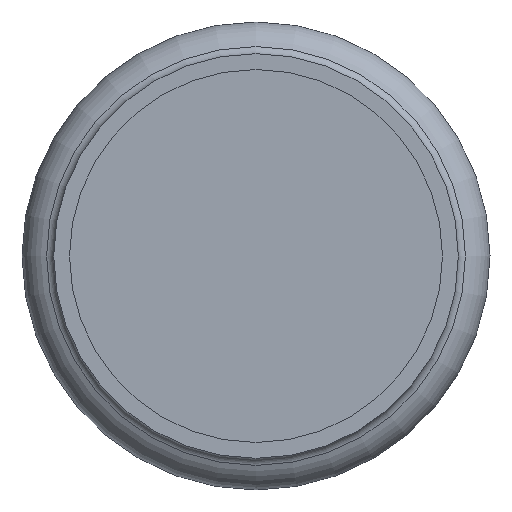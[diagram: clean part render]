
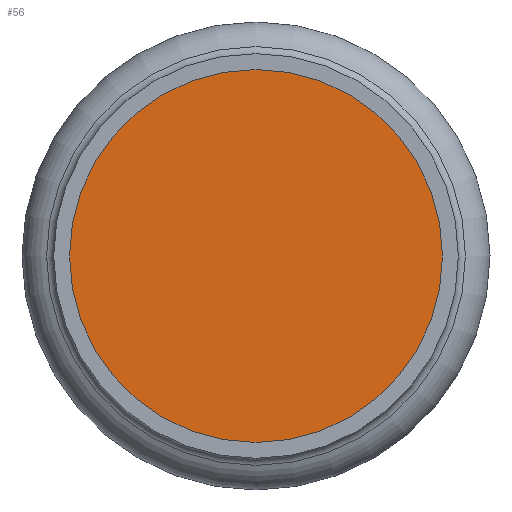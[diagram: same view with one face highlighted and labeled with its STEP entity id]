
A CAD part, front view. The second image highlights one B-rep face of the part: STEP entity #56.
In plain terms, the highlighted planar face has unit normal (0, -1, 0).
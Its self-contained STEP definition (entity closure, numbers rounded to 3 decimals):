
#56=ADVANCED_FACE('',(#99),#101,.T.);
#99=FACE_BOUND('',#100,.T.);
#100=EDGE_LOOP('',(#264));
#101=PLANE('',#102);
#102=AXIS2_PLACEMENT_3D('',#103,#104,#105);
#103=CARTESIAN_POINT('',(0.,7.257,0.));
#104=DIRECTION('',(0.,-1.,0.));
#105=DIRECTION('',(0.,0.,-1.));
#264=ORIENTED_EDGE('',*,*,#301,.T.);
#301=EDGE_CURVE('',#323,#323,#324,.F.);
#323=VERTEX_POINT('',#369);
#324=CIRCLE('',#370,17.65);
#369=CARTESIAN_POINT('',(0.,7.257,17.65));
#370=AXIS2_PLACEMENT_3D('',#371,#372,#373);
#371=CARTESIAN_POINT('',(0.,7.257,0.));
#372=DIRECTION('',(0.,1.,0.));
#373=DIRECTION('',(0.,0.,1.));
